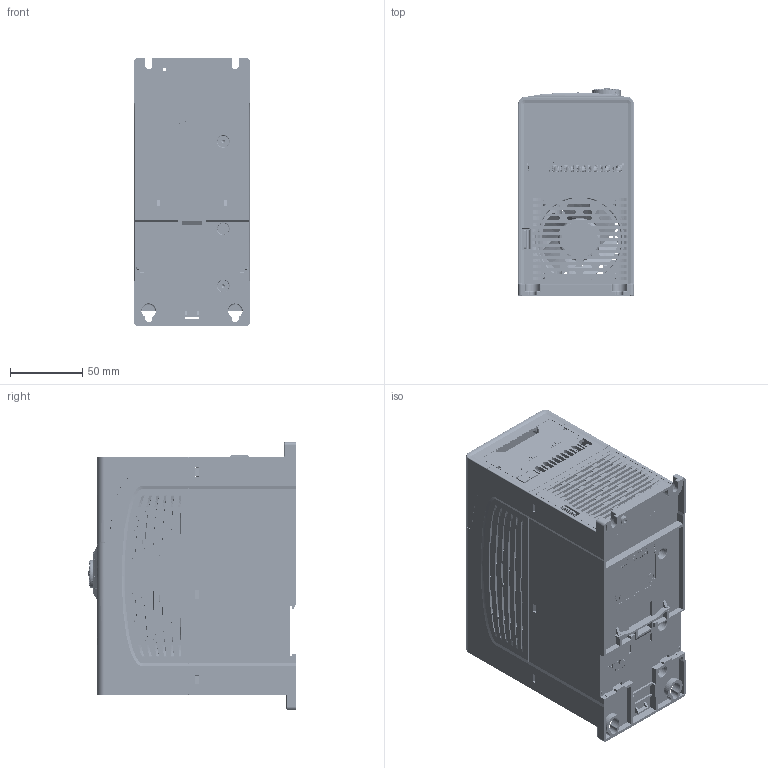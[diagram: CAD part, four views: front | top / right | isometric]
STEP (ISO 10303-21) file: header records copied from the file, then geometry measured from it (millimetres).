
FILE_DESCRIPTION((''),'2;1');
FILE_NAME('GD20-2R2-ONE_ASM','2019-10-30T',('Administrator'),(''),'PRO/ENGINEER BY PARAMETRIC TECHNOLOGY CORPORATION, 2010280','PRO/ENGINEER BY PARAMETRIC TECHNOLOGY CORPORATION, 2010280','');
FILE_SCHEMA(('CONFIG_CONTROL_DESIGN'));
Products named in the file (128): 80740116; 80740113; 80740114; 80740117; 80740115; 80810035; MIANBAN; 80780031; 80810047; 80740111; 80740109; FRAME_GD20_2R2-ONE_ASM; 86400024; 86400025; 80740117SY; 40810069_ASM; 80740115SY; 40810070_ASM; DRIVE_PCB_2R2-01; 17003-01213-DXF_A1; 61005-00116; 22011-00252; 70610218; THERMOGRAPH-3; 78430093; GD10-2R2-DIODE; IRG4PC30F; HF105F-1; EH2-S-0168-021; PRT0015_AF0; PRT0016_1_1; PRT0017; ASM0012_ASM_AF0_ASM_ASM; ASM0011_ASM_AF0_ASM_ASM; PRT0018; ASM0010_ASM_AF0_ASM_ASM; ASM0009_ASM_AF0_ASM_ASM; TB825-00_ASM_ASM; TB825-00-8P_ASM; 80390154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
Assembly tree (192 placements, depth 9):
  GD20-2R2-ONE_ASM
    FRAME_GD20_2R2-ONE_ASM
      80740116
      80740113
      80740114
      80740117
      80740115
      80810035
      MIANBAN
      80780031
      80810047
      80740111
      80740109
    40810070_ASM
      40810069_ASM
        80740117
        80740109
        86400024
        86400025
        80740117SY
      80740116
      80740115
      80740114
      80810035
      80740111
      80780031
      80740115SY
    DRIVE_PCB_2R2-01_ASM
      DRIVE_PCB_2R2-01
      17003-01213-DXF_A1
      61005-00116  x4
      22011-00252
      70610218
      THERMOGRAPH-3
      78430093
      GD10-2R2-DIODE
      IRG4PC30F
      HF105F-1
      EH2-S-0168-021
      TB825-00-8P_ASM
        TB825-00_ASM_ASM
          ASM0009_ASM_AF0_ASM_ASM
            ASM0010_ASM_AF0_ASM_ASM
              ASM0011_ASM_AF0_ASM_ASM
                PRT0015_AF0
                PRT0016_1_1  x8
                ASM0012_ASM_AF0_ASM_ASM
                  PRT0017  x8
              PRT0018  x8
      80390154  x2
      SCREW-SPRING-FLAT-M3X8  x3
      SCREW-SPRING-FLAT-M3X12  x4
      FAN_60
      POWER-SUPPLY_ASM
        POWER-SUPPLY
        36001-00020-5P  x2
        36001-00020-2P
        TRANSFORMER
      CONTROL_PCB_ASM_ASM
        CONTROL_PCB
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Bounding box: 80 x 143.54 x 185 mm (x, y, z)
Volume: 1204032.7 mm3; surface area: 1003934.8 mm2
Topology: 205 solids, 209 shells, 23778 faces, 66105 edges, 43103 vertices
Faces by surface type: plane 14660, cylinder 4817, extrusion 1470, bspline 1420, torus 799, cone 396, sphere 160, revolution 56
Entity records: 581888 total; most frequent: CARTESIAN_POINT 217776, ORIENTED_EDGE 79908, DIRECTION 67967, EDGE_CURVE 39954, VECTOR 28613, LINE 27873, VERTEX_POINT 26158, AXIS2_PLACEMENT_3D 19666
